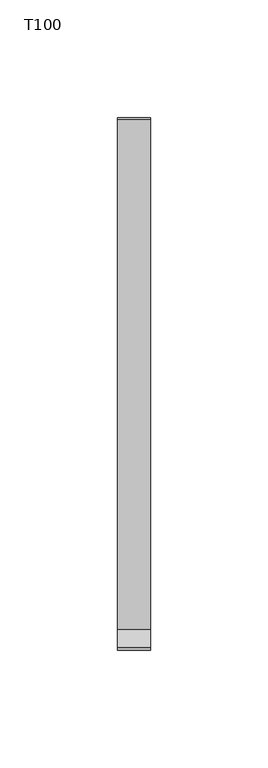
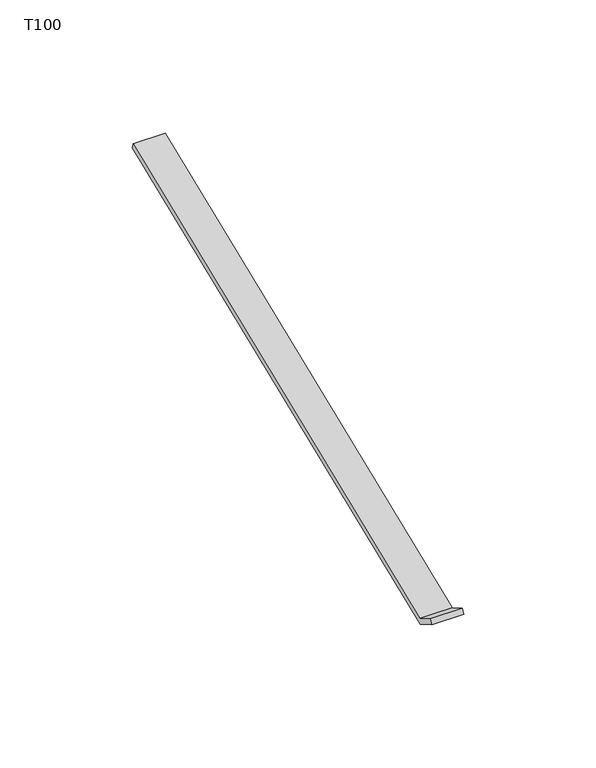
"""IFC4 building model written with IfcOpenShell, lengths in millimetres: proxy geometry, GROVIK_Gutter_Support rod : T100."""

from ifc_helpers import new_model, si_unit, frame, origin, place, context, project, spatial, polyline, outline, extrude, source, transform, mapped, element, save


def t100_66401546(model_context):
    return source(origin(), model_context, "Body", "SweptSolid", [
        extrude(outline(polyline([(123.9882058, 85.4325495), (-93.9, -2.6), (-102.560254, 2.4), (-101.360254, 4.478461), (-93.7137331, 0.0637401), (123.08915, 87.6577907), (123.9882058, 85.4325495)])), frame((-7.0, 0.0, 0.0), z_axis=(1.0, 0.0, 0.0), x_axis=(0.0, 1.0, 0.0)), (0.0, 0.0, 1.0), 14.0),
    ])


if __name__ == "__main__":
    model = new_model("IFC4")
    model_context = context("Model", 3, world=origin())
    ifc_project = project(units=[si_unit("LENGTHUNIT", "METRE", prefix="MILLI")], contexts=[model_context])
    site = spatial("IfcSite", under=ifc_project)
    building = spatial("IfcBuilding", under=site)
    placement = place(None, origin())
    t100_shape = t100_66401546(model_context)
    element("IfcBuildingElementProxy", 1, Name="GROVIK_Gutter_Support rod : T100", ObjectType="GROVIK_Gutter_Support rod : T100", at=placement, inside=building, context=model_context, shape_type="MappedRepresentation", body=[
        mapped(t100_shape, transform((0.0, 0.0, 0.0), x_axis=(1.0, 0.0, 0.0), y_axis=(0.0, 1.0, 0.0), z_axis=(0.0, 0.0, 1.0))),
    ])
    save(model, "model.ifc")
